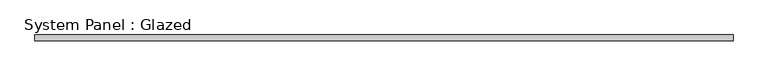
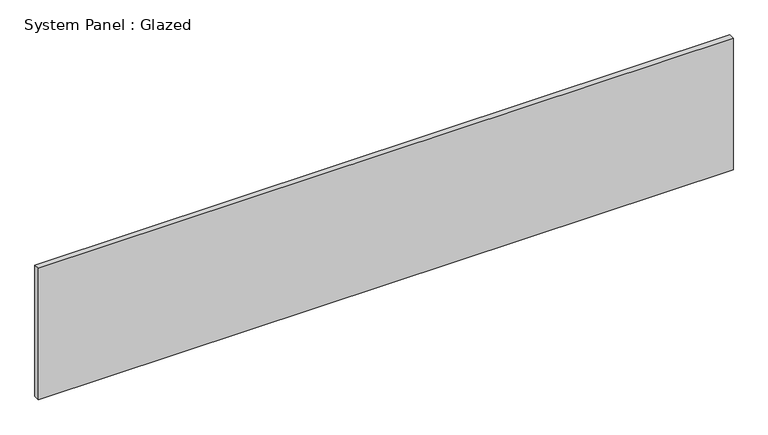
"""IFC4 building model written with IfcOpenShell, lengths in millimetres: plate geometry, System Panel : Glazed."""

from ifc_helpers import new_model, si_unit, origin, origin_with_axes, place, context, project, spatial, polyline, outline, extrude, source, transform, mapped, element, save


def system_panel_glazed_e93bef2a(model_context):
    return source(origin(), model_context, "Body", "SweptSolid", [
        extrude(outline(polyline([(1500.0, 24.5), (-1500.0, 24.5), (-1500.0, 49.5), (1500.0, 49.5), (1500.0, 24.5)])), origin_with_axes(), (0.0, 0.0, 1.0), 600.0),
    ])


if __name__ == "__main__":
    model = new_model("IFC4")
    model_context = context("Model", 3, world=origin())
    ifc_project = project(units=[si_unit("LENGTHUNIT", "METRE", prefix="MILLI")], contexts=[model_context])
    site = spatial("IfcSite", under=ifc_project)
    building = spatial("IfcBuilding", under=site)
    placement = place(None, origin())
    system_panel_glazed_shape = system_panel_glazed_e93bef2a(model_context)
    element("IfcPlate", 1, ObjectType="System Panel : Glazed", at=placement, inside=building, context=model_context, shape_type="MappedRepresentation", body=[
        mapped(system_panel_glazed_shape, transform((0.0, 0.0, 0.0), x_axis=(1.0, 0.0, 0.0), y_axis=(0.0, 1.0, 0.0), z_axis=(0.0, 0.0, 1.0))),
    ])
    save(model, "model.ifc")
